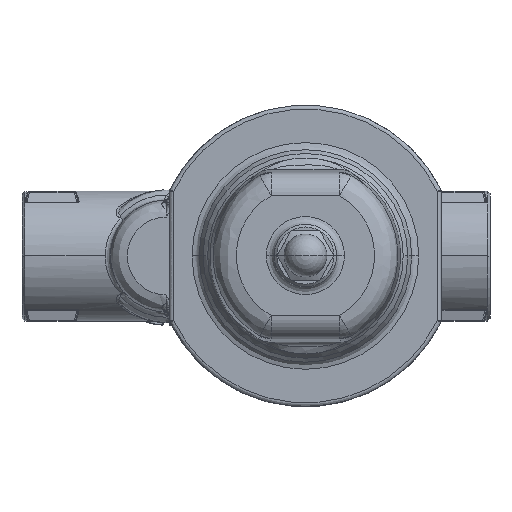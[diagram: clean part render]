
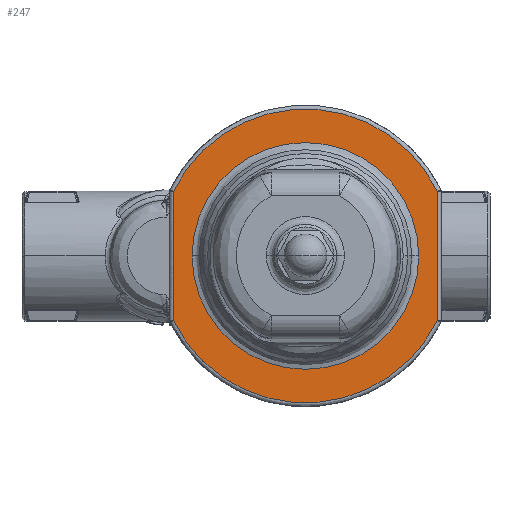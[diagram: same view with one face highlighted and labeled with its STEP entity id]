
A CAD part, top view. The second image highlights one B-rep face of the part: STEP entity #247.
In plain terms, the highlighted planar face has unit normal (0, 0, 1).
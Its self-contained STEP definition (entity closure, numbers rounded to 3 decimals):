
#247=ADVANCED_FACE('',(#1082,#1083),#1081,.F.);
#1081=PLANE('',#7222);
#1082=FACE_OUTER_BOUND('',#7223,.T.);
#1083=FACE_BOUND('',#7224,.T.);
#7219=CARTESIAN_POINT('',(60.75,-66.5,8.));
#7220=DIRECTION('',(0.,0.,-1.));
#7221=DIRECTION('',(-1.,0.,0.));
#7222=AXIS2_PLACEMENT_3D('',#7219,#7220,#7221);
#7223=EDGE_LOOP('',(#18883,#18884,#18885,#18886));
#7224=EDGE_LOOP('',(#18887,#18888));
#18883=ORIENTED_EDGE('',*,*,#21705,.T.);
#18884=ORIENTED_EDGE('',*,*,#21715,.T.);
#18885=ORIENTED_EDGE('',*,*,#21703,.T.);
#18886=ORIENTED_EDGE('',*,*,#21709,.T.);
#18887=ORIENTED_EDGE('',*,*,#21744,.F.);
#18888=ORIENTED_EDGE('',*,*,#21745,.F.);
#21703=EDGE_CURVE('',#23268,#23261,#23269,.T.);
#21705=EDGE_CURVE('',#23281,#23282,#23283,.T.);
#21709=EDGE_CURVE('',#23261,#23281,#23309,.T.);
#21715=EDGE_CURVE('',#23282,#23268,#23349,.T.);
#21744=EDGE_CURVE('',#23538,#23539,#23540,.T.);
#21745=EDGE_CURVE('',#23539,#23538,#23546,.T.);
#23261=VERTEX_POINT('',#32770);
#23268=VERTEX_POINT('',#32775);
#23269=LINE('',#32776,#32777);
#23281=VERTEX_POINT('',#32783);
#23282=VERTEX_POINT('',#32784);
#23283=LINE('',#32785,#32786);
#23309=CIRCLE('',#32804,56.5);
#23349=CIRCLE('',#32832,56.5);
#23538=VERTEX_POINT('',#32970);
#23539=VERTEX_POINT('',#32971);
#23540=CIRCLE('',#32975,43.594);
#23546=CIRCLE('',#32979,43.594);
#32770=CARTESIAN_POINT('',(50.75,24.833,8.));
#32775=CARTESIAN_POINT('',(50.75,-24.833,8.));
#32776=CARTESIAN_POINT('',(50.75,-24.833,8.));
#32777=VECTOR('',#32778,49.666);
#32778=DIRECTION('',(0.,1.,0.));
#32783=CARTESIAN_POINT('',(-50.75,24.833,8.));
#32784=CARTESIAN_POINT('',(-50.75,-24.833,8.));
#32785=CARTESIAN_POINT('',(-50.75,24.833,8.));
#32786=VECTOR('',#32787,49.666);
#32787=DIRECTION('',(0.,-1.,0.));
#32801=CARTESIAN_POINT('',(0.,0.,8.));
#32802=DIRECTION('',(0.,0.,1.));
#32803=DIRECTION('',(1.,0.,0.));
#32804=AXIS2_PLACEMENT_3D('',#32801,#32802,#32803);
#32829=CARTESIAN_POINT('',(0.,0.,8.));
#32830=DIRECTION('',(0.,0.,1.));
#32831=DIRECTION('',(1.,0.,0.));
#32832=AXIS2_PLACEMENT_3D('',#32829,#32830,#32831);
#32970=CARTESIAN_POINT('',(43.594,0.,8.));
#32971=CARTESIAN_POINT('',(-43.594,0.,8.));
#32972=CARTESIAN_POINT('',(0.,0.,8.));
#32973=DIRECTION('',(0.,0.,1.));
#32974=DIRECTION('',(-1.,0.,0.));
#32975=AXIS2_PLACEMENT_3D('',#32972,#32973,#32974);
#32976=CARTESIAN_POINT('',(0.,0.,8.));
#32977=DIRECTION('',(0.,0.,1.));
#32978=DIRECTION('',(-1.,0.,0.));
#32979=AXIS2_PLACEMENT_3D('',#32976,#32977,#32978);
